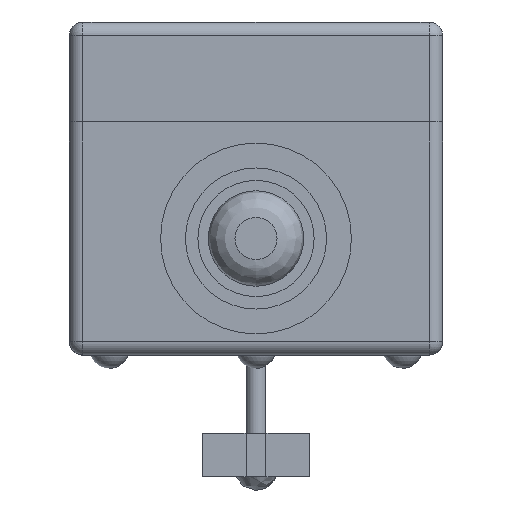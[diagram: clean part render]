
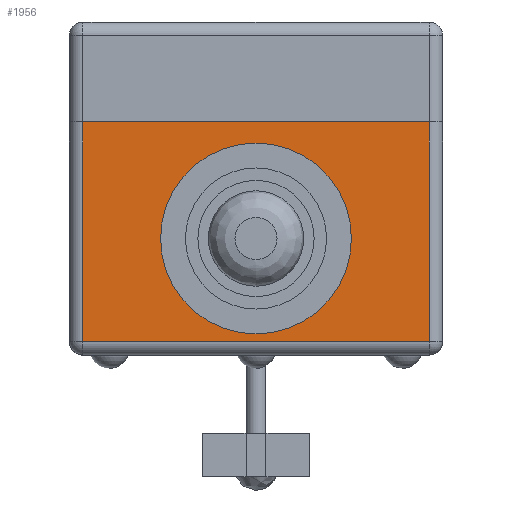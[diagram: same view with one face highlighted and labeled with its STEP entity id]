
A CAD part, front view. The second image highlights one B-rep face of the part: STEP entity #1956.
In plain terms, the highlighted planar face has unit normal (0, -1, 0).
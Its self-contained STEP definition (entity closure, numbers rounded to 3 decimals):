
#88=PLANE('',#2147);
#175=LINE('',#3104,#329);
#179=LINE('',#3113,#333);
#182=LINE('',#3120,#336);
#199=LINE('',#3173,#353);
#329=VECTOR('',#2475,10.);
#333=VECTOR('',#2485,10.);
#336=VECTOR('',#2492,10.);
#353=VECTOR('',#2549,10.);
#551=FACE_OUTER_BOUND('',#704,.T.);
#704=EDGE_LOOP('',(#1551,#1552,#1553,#1554));
#953=VERTEX_POINT('',#3076);
#961=VERTEX_POINT('',#3097);
#965=VERTEX_POINT('',#3111);
#966=VERTEX_POINT('',#3116);
#1160=EDGE_CURVE('',#961,#953,#175,.T.);
#1165=EDGE_CURVE('',#965,#961,#179,.T.);
#1169=EDGE_CURVE('',#953,#966,#182,.T.);
#1193=EDGE_CURVE('',#966,#965,#199,.T.);
#1551=ORIENTED_EDGE('',*,*,#1165,.F.);
#1552=ORIENTED_EDGE('',*,*,#1193,.F.);
#1553=ORIENTED_EDGE('',*,*,#1169,.F.);
#1554=ORIENTED_EDGE('',*,*,#1160,.F.);
#1956=ADVANCED_FACE('',(#551),#88,.T.);
#2147=AXIS2_PLACEMENT_3D('',#3172,#2547,#2548);
#2475=DIRECTION('',(-1.,0.,0.));
#2485=DIRECTION('',(0.,0.,-1.));
#2492=DIRECTION('',(0.,0.,1.));
#2547=DIRECTION('center_axis',(0.,-1.,0.));
#2548=DIRECTION('ref_axis',(0.,0.,-1.));
#2549=DIRECTION('',(1.,0.,0.));
#3076=CARTESIAN_POINT('',(1.,6.,1.));
#3097=CARTESIAN_POINT('',(27.,6.,1.));
#3104=CARTESIAN_POINT('',(0.,6.,1.));
#3111=CARTESIAN_POINT('',(27.,6.,17.5));
#3113=CARTESIAN_POINT('',(27.,6.,11.795));
#3116=CARTESIAN_POINT('',(1.,6.,17.5));
#3120=CARTESIAN_POINT('',(1.,6.,11.795));
#3172=CARTESIAN_POINT('Origin',(0.,6.,17.5));
#3173=CARTESIAN_POINT('',(0.,6.,17.5));
